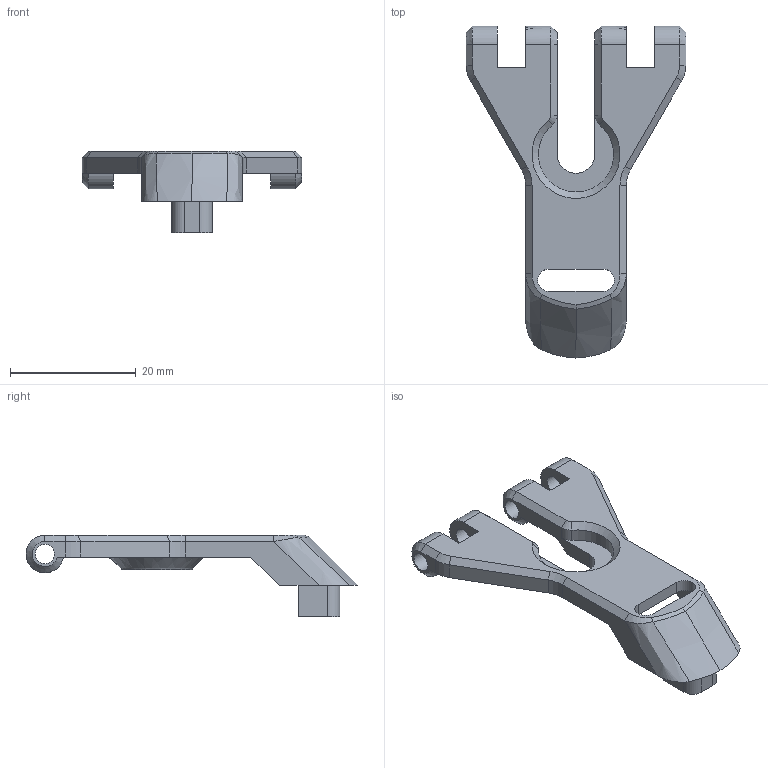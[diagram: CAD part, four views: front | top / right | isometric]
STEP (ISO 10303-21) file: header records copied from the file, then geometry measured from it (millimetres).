
FILE_DESCRIPTION( ( '' ), ' ' );
FILE_NAME( '/vol/tmp/translate-6909693179196213247/589d332d876aac0fbabf0df6.step', '2017-02-10T03:27:42', ( '' ), ( '' ), ' ', ' ', ' ' );
FILE_SCHEMA( ( 'AUTOMOTIVE_DESIGN { 1 0 10303 214 1 1 1 1 }' ) );
Length unit declared in the file: metre
Products named in the file (1): Part 2
Bounding box: 35 x 52.85 x 13 mm (x, y, z)
Volume: 3249.8 mm3; surface area: 3295.9 mm2
Topology: 1 solids, 1 shells, 91 faces, 249 edges, 161 vertices
Faces by surface type: plane 43, cylinder 27, cone 14, bspline 7
Full cylindrical faces by diameter (mm): 1.75 x2, 3 x1, 3.059 x4
Entity records: 3809 total; most frequent: CARTESIAN_POINT 845, ORIENTED_EDGE 462, DIRECTION 440, EDGE_CURVE 231, VERTEX_POINT 156, AXIS2_PLACEMENT_3D 153, LINE 134, VECTOR 134
